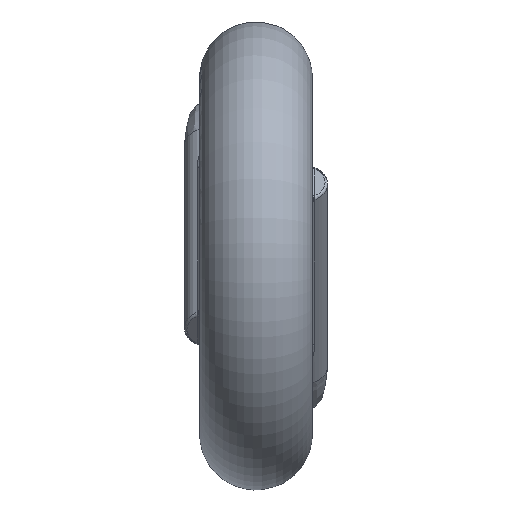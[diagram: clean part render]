
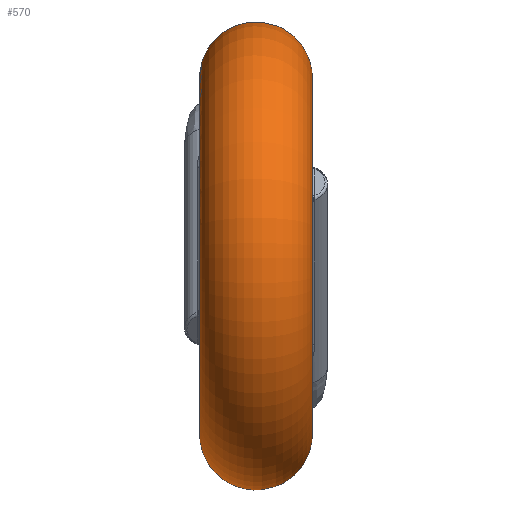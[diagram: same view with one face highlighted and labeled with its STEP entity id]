
A CAD part, left-side view. The second image highlights one B-rep face of the part: STEP entity #570.
In plain terms, the highlighted toroidal (fillet/blend) face has major radius 6.945 mm and minor radius 2.205 mm.
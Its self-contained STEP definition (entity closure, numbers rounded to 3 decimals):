
#20=TOROIDAL_SURFACE('',#632,6.945,2.205);
#81=B_SPLINE_CURVE_WITH_KNOTS('',3,(#1796,#1797,#1798,#1799,#1800,#1801,
#1802,#1803,#1804,#1805,#1806,#1807,#1808,#1809),.UNSPECIFIED.,.F.,.F.,
(4,1,1,1,1,1,1,1,1,1,1,4),(-0.811,-0.695,-0.579,
-0.463,-0.405,-0.348,-0.29,
-0.232,-0.174,-0.116,-0.087,
0.),.UNSPECIFIED.);
#82=B_SPLINE_CURVE_WITH_KNOTS('',3,(#1815,#1816,#1817,#1818,#1819,#1820,
#1821,#1822,#1823,#1824,#1825,#1826,#1827,#1828),.UNSPECIFIED.,.F.,.F.,
(4,1,1,1,1,1,1,1,1,1,1,4),(-0.811,-0.695,-0.579,
-0.463,-0.405,-0.348,-0.29,
-0.232,-0.174,-0.116,-0.087,
0.),.UNSPECIFIED.);
#97=FACE_BOUND('',#171,.T.);
#129=FACE_OUTER_BOUND('',#170,.T.);
#170=EDGE_LOOP('',(#453,#454));
#171=EDGE_LOOP('',(#455,#456));
#215=CIRCLE('',#633,6.945);
#216=CIRCLE('',#634,6.945);
#259=VERTEX_POINT('',#1693);
#260=VERTEX_POINT('',#1794);
#261=VERTEX_POINT('',#1813);
#262=VERTEX_POINT('',#1814);
#330=EDGE_CURVE('',#260,#259,#81,.T.);
#332=EDGE_CURVE('',#261,#262,#82,.T.);
#333=EDGE_CURVE('',#261,#262,#215,.T.);
#334=EDGE_CURVE('',#260,#259,#216,.T.);
#453=ORIENTED_EDGE('',*,*,#332,.T.);
#454=ORIENTED_EDGE('',*,*,#333,.F.);
#455=ORIENTED_EDGE('',*,*,#330,.T.);
#456=ORIENTED_EDGE('',*,*,#334,.F.);
#570=ADVANCED_FACE('',(#129,#97),#20,.T.);
#632=AXIS2_PLACEMENT_3D('',#1812,#759,#760);
#633=AXIS2_PLACEMENT_3D('',#1829,#761,#762);
#634=AXIS2_PLACEMENT_3D('',#1830,#763,#764);
#759=DIRECTION('center_axis',(0.,1.,0.));
#760=DIRECTION('ref_axis',(1.,0.,0.));
#761=DIRECTION('center_axis',(0.,-1.,0.));
#762=DIRECTION('ref_axis',(-1.,0.,0.));
#763=DIRECTION('center_axis',(0.,1.,0.));
#764=DIRECTION('ref_axis',(-1.,0.,0.));
#1693=CARTESIAN_POINT('',(5.975,3.6,3.54));
#1794=CARTESIAN_POINT('',(6.796,3.6,1.43));
#1796=CARTESIAN_POINT('Ctrl Pts',(6.796,3.6,1.43));
#1797=CARTESIAN_POINT('Ctrl Pts',(7.043,3.6,1.698));
#1798=CARTESIAN_POINT('Ctrl Pts',(7.604,3.471,2.152));
#1799=CARTESIAN_POINT('Ctrl Pts',(8.306,2.82,2.696));
#1800=CARTESIAN_POINT('Ctrl Pts',(8.38,2.15,3.393));
#1801=CARTESIAN_POINT('Ctrl Pts',(8.124,1.917,4.083));
#1802=CARTESIAN_POINT('Ctrl Pts',(7.839,1.965,4.587));
#1803=CARTESIAN_POINT('Ctrl Pts',(7.5,2.27,4.951));
#1804=CARTESIAN_POINT('Ctrl Pts',(7.171,2.724,4.984));
#1805=CARTESIAN_POINT('Ctrl Pts',(6.887,3.113,4.739));
#1806=CARTESIAN_POINT('Ctrl Pts',(6.661,3.345,4.429));
#1807=CARTESIAN_POINT('Ctrl Pts',(6.376,3.541,4.019));
#1808=CARTESIAN_POINT('Ctrl Pts',(6.16,3.6,3.733));
#1809=CARTESIAN_POINT('Ctrl Pts',(5.975,3.6,3.54));
#1812=CARTESIAN_POINT('Origin',(0.,1.395,0.));
#1813=CARTESIAN_POINT('',(6.796,-0.81,-1.43));
#1814=CARTESIAN_POINT('',(5.975,-0.81,-3.54));
#1815=CARTESIAN_POINT('Ctrl Pts',(6.796,-0.81,-1.43));
#1816=CARTESIAN_POINT('Ctrl Pts',(7.043,-0.81,-1.698));
#1817=CARTESIAN_POINT('Ctrl Pts',(7.604,-0.681,-2.152));
#1818=CARTESIAN_POINT('Ctrl Pts',(8.306,-0.03,
-2.696));
#1819=CARTESIAN_POINT('Ctrl Pts',(8.38,0.64,-3.393));
#1820=CARTESIAN_POINT('Ctrl Pts',(8.124,0.873,-4.083));
#1821=CARTESIAN_POINT('Ctrl Pts',(7.839,0.825,-4.587));
#1822=CARTESIAN_POINT('Ctrl Pts',(7.5,0.52,-4.951));
#1823=CARTESIAN_POINT('Ctrl Pts',(7.171,0.066,-4.984));
#1824=CARTESIAN_POINT('Ctrl Pts',(6.887,-0.323,-4.739));
#1825=CARTESIAN_POINT('Ctrl Pts',(6.661,-0.555,-4.429));
#1826=CARTESIAN_POINT('Ctrl Pts',(6.376,-0.751,-4.019));
#1827=CARTESIAN_POINT('Ctrl Pts',(6.16,-0.81,-3.733));
#1828=CARTESIAN_POINT('Ctrl Pts',(5.975,-0.81,-3.54));
#1829=CARTESIAN_POINT('Origin',(0.,-0.81,0.));
#1830=CARTESIAN_POINT('Origin',(0.,3.6,0.));
